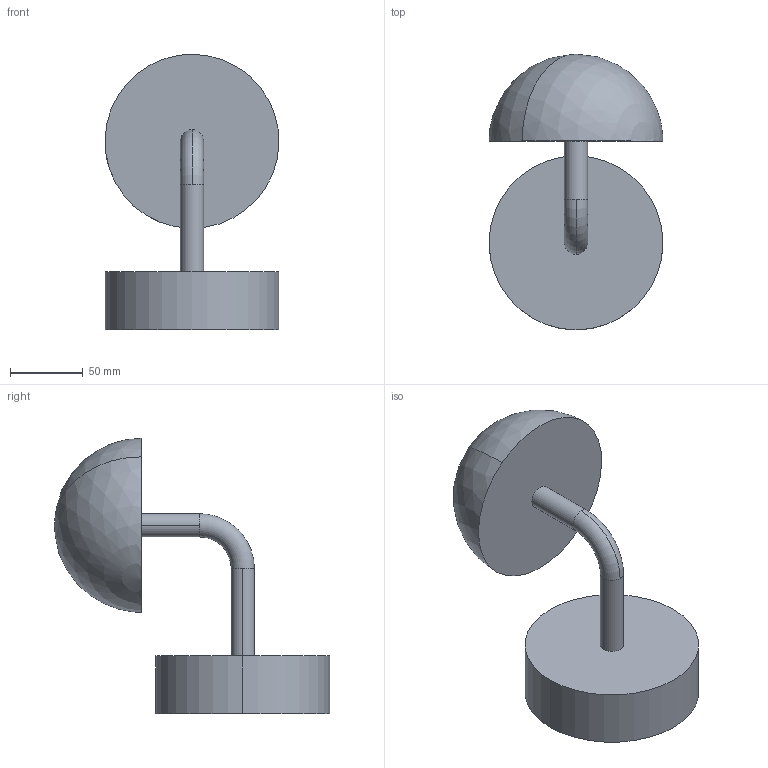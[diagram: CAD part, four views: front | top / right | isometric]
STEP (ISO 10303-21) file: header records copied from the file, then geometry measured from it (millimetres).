
FILE_DESCRIPTION (( 'STEP AP214' ), '1' );
FILE_NAME ('AU1307_ DUSSA.STEP', '2026-06-05T07:22:05', ( '' ), ( '' ), 'SwSTEP 2.0', 'SolidWorks 2023', '' );
FILE_SCHEMA (( 'AUTOMOTIVE_DESIGN' ));
Length unit declared in the file: inch
Products named in the file (1): AU1307_ DUSSA
Bounding box: 119.94 x 189.94 x 189.85 mm (x, y, z)
Volume: 932138.4 mm3; surface area: 78921.3 mm2
Topology: 2 solids, 2 shells, 14 faces, 32 edges, 21 vertices
Faces by surface type: cylinder 6, plane 4, torus 2, sphere 2
Entity records: 420 total; most frequent: DIRECTION 80, CARTESIAN_POINT 62, ORIENTED_EDGE 56, AXIS2_PLACEMENT_3D 37, EDGE_CURVE 28, CIRCLE 22, VERTEX_POINT 19, EDGE_LOOP 15
